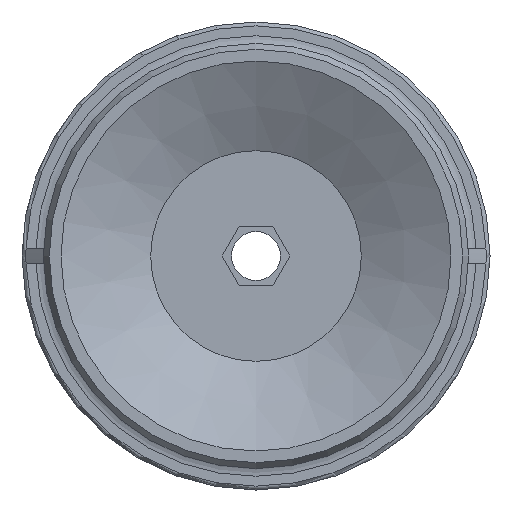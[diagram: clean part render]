
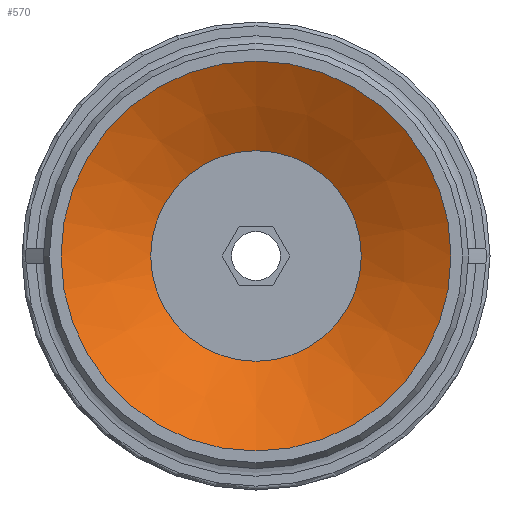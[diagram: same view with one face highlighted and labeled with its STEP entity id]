
A CAD part, front view. The second image highlights one B-rep face of the part: STEP entity #570.
In plain terms, the highlighted conical face has half-angle 61.631 degrees and reference radius 5.4 mm.
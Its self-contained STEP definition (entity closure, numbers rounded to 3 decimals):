
#570=ADVANCED_FACE('',(#854,#855),#856,.F.);
#854=FACE_BOUND('',#1139,.T.);
#855=FACE_OUTER_BOUND('',#1140,.T.);
#856=CONICAL_SURFACE('',#1141,5.4,1.076);
#1139=EDGE_LOOP('',(#1907));
#1140=EDGE_LOOP('',(#1908));
#1141=AXIS2_PLACEMENT_3D('',#1909,#1910,#1911);
#1907=ORIENTED_EDGE('',*,*,#2101,.F.);
#1908=ORIENTED_EDGE('',*,*,#2122,.T.);
#1909=CARTESIAN_POINT('',(0.0,2.484,0.0));
#1910=DIRECTION('',(-0.0,-1.0,0.));
#1911=DIRECTION('',(0.0,0.,-1.0));
#2101=EDGE_CURVE('',#2445,#2445,#2446,.T.);
#2122=EDGE_CURVE('',#2479,#2479,#2480,.T.);
#2445=VERTEX_POINT('',#3201);
#2446=CIRCLE('',#3202,5.4);
#2479=VERTEX_POINT('',#3239);
#2480=CIRCLE('',#3240,10.0);
#3201=CARTESIAN_POINT('',(0.0,2.484,-5.4));
#3202=AXIS2_PLACEMENT_3D('',#3540,#3541,#3542);
#3239=CARTESIAN_POINT('',(0.0,0.,-10.0));
#3240=AXIS2_PLACEMENT_3D('',#3595,#3596,#3597);
#3540=CARTESIAN_POINT('',(0.0,2.484,0.0));
#3541=DIRECTION('',(0.0,-1.0,0.));
#3542=DIRECTION('',(0.0,0.,-1.0));
#3595=CARTESIAN_POINT('',(0.0,0.0,0.0));
#3596=DIRECTION('',(0.0,-1.0,0.));
#3597=DIRECTION('',(0.0,0.,-1.0));
